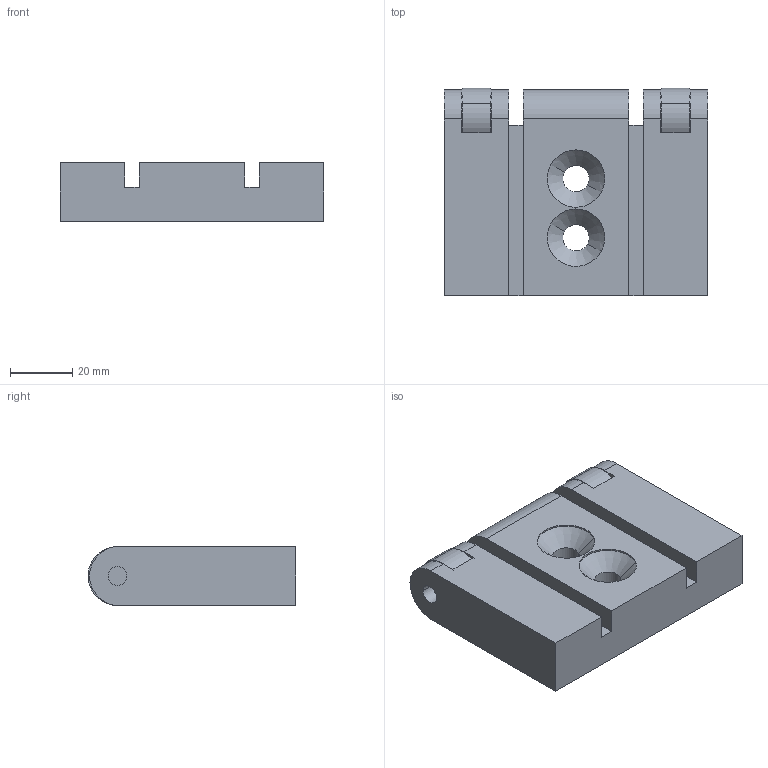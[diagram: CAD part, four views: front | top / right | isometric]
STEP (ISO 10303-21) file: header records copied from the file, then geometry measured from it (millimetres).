
FILE_DESCRIPTION(('CATIA V5 STEP Exchange'),'2;1');
FILE_NAME('S:\3D e 2D per Clienti\3D definitivi\Part 200\P22817_02.stp','2018-04-16T10:07:31+00:00',('none'),('none'),'Version 5-6 Release 2012','CATIA V5 STEP AP203','none');
FILE_SCHEMA(('CONFIG_CONTROL_DESIGN'));
Length unit declared in the file: millimetre
Products named in the file (1): P22817_02
Assembly tree (3 placements, depth 2):
  P22817_02
    #58
    #1532  x2
Bounding box: 84.8 x 67 x 19 mm (x, y, z)
Volume: 90581.9 mm3; surface area: 23650.6 mm2
Topology: 5 solids, 5 shells, 58 faces, 164 edges, 104 vertices
Faces by surface type: cylinder 25, plane 25, cone 4, sphere 4
Entity records: 1665 total; most frequent: ORIENTED_EDGE 296, CARTESIAN_POINT 281, DIRECTION 218, EDGE_CURVE 148, VERTEX_POINT 98, AXIS2_PLACEMENT_3D 95, VECTOR 88, LINE 88
